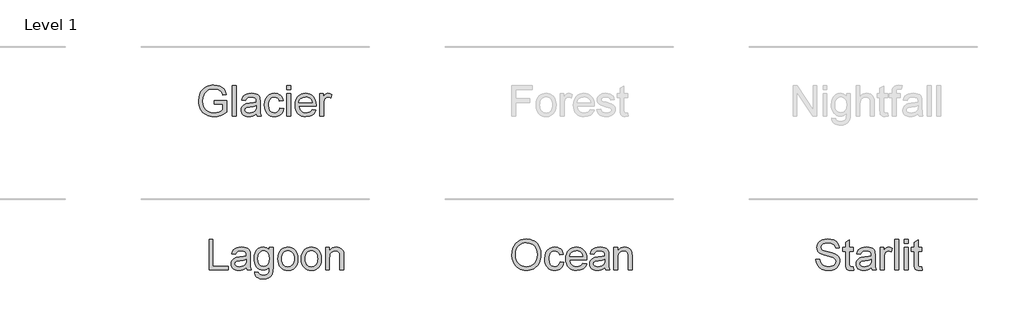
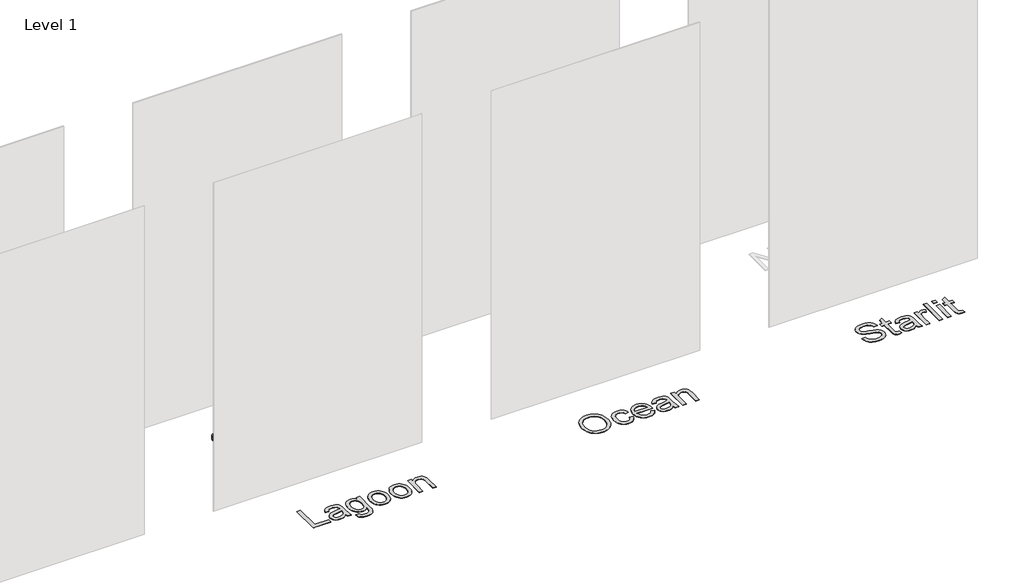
# One storey, part 6 of 7: 4 proxies.
"""IFC4 building model written with IfcOpenShell, lengths in millimetres."""

from ifc_helpers import new_model, si_unit, origin, origin_with_axes, place, context, project, spatial, polyline, outline, extrude, element, save

model = new_model("IFC4")

# Units and contexts
model_context = context("Model", 3, world=origin())
ifc_project = project(units=[si_unit("LENGTHUNIT", "METRE", prefix="MILLI")], contexts=[model_context])

# Site, building, storey
site = spatial("IfcSite", under=ifc_project)
building = spatial("IfcBuilding", under=site)
storey = spatial("IfcBuildingStorey", under=building, Name="Level 1", Elevation=0.0)

# Proxies
placement = place(None, origin())
element("IfcBuildingElementProxy", 1, Name="400mm Arial", ObjectType="400mm Arial", at=placement, inside=storey, context=model_context, shape_type="SweptSolid", body=[
    extrude(outline(polyline([(-369.6073831, 9946.5888668), (-369.6073831, 9996.8170219), (-206.3658791, 9996.8170219), (-206.3658791, 9846.623066), (-246.0358209, 9819.0319164), (-286.9565615, 9799.239865), (-329.029999, 9787.3204884), (-372.1580316, 9783.3473628), (-401.009177, 9784.9261897), (-428.5052905, 9789.6626704), (-454.6463719, 9797.5568049), (-479.4324214, 9808.6085932), (-502.0632954, 9822.6524883), (-521.7388508, 9839.5229435), (-538.4590875, 9859.2199586), (-552.2240055, 9881.7435338), (-562.9753568, 9906.3732334), (-570.6548934, 9932.3886218), (-575.2626154, 9959.7896991), (-576.7985228, 9988.5764652), (-570.6794189, 10045.1689788), (-563.0305391, 10071.9845106), (-552.3221073, 10097.8128923), (-538.744196, 10121.5198212), (-522.4868775, 10141.9709945), (-503.5501518, 10159.166412), (-481.9340189, 10173.106074), (-458.1075284, 10183.8788851), (-432.5397297, 10191.5737501), (-405.2306229, 10196.1906692), (-376.1802081, 10197.7296422), (-334.8057463, 10194.1611868), (-297.6006139, 10183.4558208), (-266.2693306, 10166.3860962), (-242.5164165, 10143.7245653), (-224.9439198, 10114.3798448), (-212.1538891, 10077.2605515), (-258.4579696, 10064.2130034), (-268.7954537, 10090.6882443), (-281.3647552, 10110.6642367), (-297.9930213, 10125.722873), (-320.5073995, 10137.4460459), (-347.3505224, 10144.9876268), (-376.965023, 10147.5014871), (-411.6317697, 10144.7914231), (-441.2707957, 10136.661231), (-465.7717366, 10124.1287177), (-485.0242277, 10108.21169), (-499.8008212, 10089.7317511), (-510.8740692, 10069.5105041), (-522.6462931, 10031.5941332), (-526.5703677, 9990.6366044), (-521.8492154, 9942.6034785), (-507.6857586, 9903.0806895), (-484.5091929, 9872.3502802), (-452.748714, 9850.6942934), (-415.5803697, 9837.8552118), (-376.1802081, 9833.5755179), (-341.390834, 9836.8006167), (-307.4598514, 9846.4759132), (-277.9925035, 9859.8055042), (-256.5940342, 9873.9934864), (-256.5940342, 9946.5888668), (-369.6073831, 9946.5888668)])), origin_with_axes(), (0.0, 0.0, 1.0), 5.0),
    extrude(outline(polyline([(-131.0236465, 9789.6258822), (-131.0236465, 10191.4511228), (-80.7954914, 10191.4511228), (-80.7954914, 9789.6258822), (-131.0236465, 9789.6258822)])), origin_with_axes(), (0.0, 0.0, 1.0), 5.0),
    extrude(outline(polyline([(182.9023227, 9827.2969985), (158.9041539, 9806.7201322), (134.1947466, 9793.2556512), (108.210015, 9785.8244349), (80.3858734, 9783.3473628), (58.0217138, 9784.8372849), (38.4105378, 9789.3070511), (21.5523453, 9796.7566615), (7.4471365, 9807.1861161), (-3.6904909, 9819.9332272), (-11.645939, 9834.3358074), (-16.4192079, 9850.3938564), (-18.0102976, 9868.1073745), (-15.6068019, 9888.9294954), (-8.3963147, 9907.83863), (2.7259842, 9924.0254378), (16.8649156, 9936.6805784), (33.480919, 9946.2455103), (52.0344343, 9953.1616918), (95.4935607, 9960.7155354), (146.8498872, 9968.6617865), (182.6080171, 9977.9814637), (182.9023227, 9989.1650764), (179.444232, 10011.5813526), (169.0699597, 10026.2475815), (145.8688686, 10037.1368886), (113.5443039, 10040.7666576), (83.623235, 10038.3508991), (62.7275377, 10031.1036238), (48.4782417, 10017.7004565), (38.4963769, 9996.8170219), (-11.7317782, 10003.0955413), (-3.0129749, 10030.5640636), (9.997785, 10052.146474), (28.5145121, 10068.6521128), (53.751217, 10080.8903205), (84.6165164, 10088.4686896), (120.019027, 10090.9948127), (153.9745352, 10088.7629952), (180.8912345, 10082.0675429), (201.1860579, 10071.999839), (215.2759383, 10059.6512667), (224.620141, 10044.3841639), (230.6779312, 10025.5608684), (233.1304778, 9981.6112328), (233.1304778, 9919.1203445), (235.6811263, 9831.8587352), (245.6875166, 9789.6258822), (195.4593615, 9789.6258822), (187.4150086, 9807.0880142), (182.9023227, 9827.2969985)]), holes=[polyline([(182.9023227, 9927.7533087), (149.1552811, 9919.3901246), (101.8701819, 9912.3513158), (58.6563102, 9904.208861), (47.4113839, 9898.6415801), (39.0849881, 9890.9651091), (33.9346402, 9881.7680593), (32.2178575, 9871.6390417), (35.9579911, 9856.7030327), (47.178392, 9844.464825), (65.6338054, 9836.2978447), (91.0789767, 9833.5755179), (118.0569897, 9836.5798875), (141.895743, 9845.5929964), (161.2218105, 9858.8735364), (174.6617661, 9874.6801995), (180.6214544, 9890.9651091), (182.6080171, 9913.5285382), (182.9023227, 9927.7533087)])]), origin_with_axes(), (0.0, 0.0, 1.0), 5.0),
    extrude(outline(polyline([(490.5497726, 9896.3607117), (540.7779277, 9890.0821924), (535.31488, 9866.3813948), (526.7738864, 9845.4090554), (515.1549467, 9827.1651741), (500.458061, 9811.649751), (483.3024973, 9799.2674562), (464.3075236, 9790.4229599), (443.4731399, 9785.1162621), (420.7993463, 9783.3473628), (392.6287825, 9785.8152379), (367.3706179, 9793.218863), (345.0248523, 9805.5582383), (325.5914859, 9822.8333636), (309.861465, 9844.7192767), (298.6257357, 9870.8910149), (291.8842981, 9901.3485785), (289.6371523, 9936.0919672), (293.4753878, 9980.7896296), (304.9900942, 10019.5276037), (324.3652126, 10050.809836), (351.784684, 10073.1402732), (384.5874952, 10086.5311778), (420.1126332, 10090.9948127), (442.3970851, 10089.461971), (462.5539527, 10084.8634461), (480.5832362, 10077.1992378), (496.4849354, 10066.4693463), (509.9892703, 10052.9190262), (520.8264608, 10036.793532), (528.9965068, 10018.0928639), (534.4994083, 9996.8170219), (484.2712532, 9990.5385025), (475.1600424, 10012.4520067), (460.9720602, 10028.1605679), (442.4921213, 10037.6151352), (420.5050407, 10040.7666576), (403.4383818, 10039.2154218), (388.045586, 10034.5617146), (374.3266533, 10026.8055359), (362.2815836, 10015.9468856), (352.4744627, 10001.7343779), (345.4693764, 9983.9166266), (341.2663246, 9962.4936317), (339.8653074, 9937.4653933), (345.3467491, 9890.3887607), (352.1985512, 9872.4514477), (361.7910743, 9858.248137), (373.5970206, 9847.4538662), (387.0890928, 9839.7436727), (402.2672908, 9835.1175566), (419.1316146, 9833.5755179), (445.1408716, 9837.4260161), (466.4657646, 9848.9775108), (481.9781221, 9868.5243074), (490.5497726, 9896.3607117)])), origin_with_axes(), (0.0, 0.0, 1.0), 5.0),
    extrude(outline(polyline([(584.7275633, 10141.2229677), (584.7275633, 10191.4511228), (634.9557184, 10191.4511228), (634.9557184, 10141.2229677), (584.7275633, 10141.2229677)])), origin_with_axes(), (0.0, 0.0, 1.0), 5.0),
    extrude(outline(polyline([(584.7275633, 9789.6258822), (584.7275633, 10084.7162933), (634.9557184, 10084.7162933), (634.9557184, 9789.6258822), (584.7275633, 9789.6258822)])), origin_with_axes(), (0.0, 0.0, 1.0), 5.0),
    extrude(outline(polyline([(916.9004795, 9877.5251536), (966.1476159, 9871.2466342), (958.596838, 9851.5220279), (948.403441, 9834.1396036), (935.5674251, 9819.0993614), (920.0887901, 9806.4013012), (902.1269517, 9796.3152031), (881.8413254, 9789.1108474), (834.2987089, 9783.3473628), (803.1329725, 9785.833632), (775.3640132, 9793.2924394), (750.9918311, 9805.7237852), (730.016426, 9823.1276692), (713.1490365, 9845.0197136), (701.1009012, 9870.9155404), (693.8720199, 9900.8151496), (691.4623929, 9934.7185411), (693.8965454, 9969.7715639), (701.199003, 10000.6675201), (713.3697657, 10027.4064098), (730.4088334, 10049.9882329), (751.3290562, 10067.9286116), (775.143284, 10080.7431677), (801.8515169, 10088.4319014), (831.4537548, 10090.9948127), (860.1025652, 10088.4380328), (886.0106547, 10080.7676932), (909.1780233, 10067.9837939), (929.6046711, 10050.0863348), (946.2789225, 10027.5535626), (958.1891021, 10000.8637238), (965.3352099, 9970.0168185), (967.7172458, 9935.0128467), (967.4229402, 9921.4747893), (741.690548, 9921.4747893), (744.5998814, 9901.4313519), (750.3848258, 9883.8772494), (759.0453811, 9868.8124817), (770.5815473, 9856.2370488), (784.3556623, 9846.322629), (799.7300641, 9839.2409006), (835.2797275, 9833.5755179), (862.0124858, 9836.1997428), (884.5268639, 9844.0724175), (902.8228618, 9857.6840513), (916.9004795, 9877.5251536)]), holes=[polyline([(741.690548, 9971.7029443), (917.4890907, 9971.7029443), (910.6955365, 9998.2394989), (897.3782083, 10017.2222099), (883.6807354, 10027.5229058), (868.0948015, 10034.8805457), (850.6204067, 10039.2951296), (831.257551, 10040.7666576), (797.4001448, 10036.0700308), (769.4043249, 10021.9801504), (749.9433674, 10000.0175952), (741.690548, 9971.7029443)])]), origin_with_axes(), (0.0, 0.0, 1.0), 5.0),
    extrude(outline(polyline([(1017.9454009, 9789.6258822), (1017.9454009, 10084.7162933), (1061.8950366, 10084.7162933), (1061.8950366, 10041.0609632), (1078.1308953, 10066.3712444), (1093.0914297, 10081.282728), (1108.1010151, 10088.5667915), (1124.4840267, 10090.9948127), (1149.5000023, 10087.119789), (1174.9083855, 10075.4947179), (1158.1329665, 10030.4659617), (1140.4746307, 10038.1914836), (1122.816295, 10040.7666576), (1107.8189723, 10038.2895855), (1094.4158049, 10030.8583692), (1083.5878115, 10019.0370944), (1076.3160108, 10003.3898469), (1070.2091696, 9975.3327134), (1068.1735559, 9944.7249314), (1068.1735559, 9789.6258822), (1017.9454009, 9789.6258822)])), origin_with_axes(), (0.0, 0.0, 1.0), 5.0),
])
element("IfcBuildingElementProxy", 2, Name="400mm Arial", ObjectType="400mm Arial", at=placement, inside=storey, context=model_context, shape_type="SweptSolid", body=[
    extrude(outline(polyline([(-437.9629646, 7763.6258822), (-437.9629646, 8165.4511228), (-387.7348095, 8165.4511228), (-387.7348095, 7813.8540373), (-186.8221892, 7813.8540373), (-186.8221892, 7763.6258822), (-437.9629646, 7763.6258822)])), origin_with_axes(), (0.0, 0.0, 1.0), 5.0),
    extrude(outline(polyline([(51.7615474, 7801.2969985), (27.7633786, 7780.7201322), (3.0539712, 7767.2556512), (-22.9307604, 7759.8244349), (-50.754902, 7757.3473628), (-73.1190616, 7758.8372849), (-92.7302376, 7763.3070511), (-109.58843, 7770.7566615), (-123.6936389, 7781.1861161), (-134.8312663, 7793.9332272), (-142.7867144, 7808.3358074), (-147.5599833, 7824.3938564), (-149.1510729, 7842.1073745), (-146.7475772, 7862.9294954), (-139.5370901, 7881.83863), (-128.4147911, 7898.0254378), (-114.2758598, 7910.6805784), (-97.6598563, 7920.2455103), (-79.106341, 7927.1616918), (-35.6472147, 7934.7155354), (15.7091118, 7942.6617865), (51.4672418, 7951.9814637), (51.7615474, 7963.1650764), (48.3034566, 7985.5813526), (37.9291844, 8000.2475815), (14.7280932, 8011.1368886), (-17.5964715, 8014.7666576), (-47.5175404, 8012.3508991), (-68.4132377, 8005.1036238), (-82.6625337, 7991.7004565), (-92.6443985, 7970.8170219), (-142.8725535, 7977.0955413), (-134.1537503, 8004.5640636), (-121.1429904, 8026.146474), (-102.6262633, 8042.6521128), (-77.3895584, 8054.8903205), (-46.524259, 8062.4686896), (-11.1217483, 8064.9948127), (22.8337598, 8062.7629952), (49.7504591, 8056.0675429), (70.0452825, 8045.999839), (84.1351629, 8033.6512667), (93.4793656, 8018.3841639), (99.5371558, 7999.5608684), (101.9897024, 7955.6112328), (101.9897024, 7893.1203445), (104.5403509, 7805.8587352), (114.5467412, 7763.6258822), (64.3185861, 7763.6258822), (56.2742332, 7781.0880142), (51.7615474, 7801.2969985)]), holes=[polyline([(51.7615474, 7901.7533087), (18.0145057, 7893.3901246), (-29.2705934, 7886.3513158), (-72.4844651, 7878.208861), (-83.7293915, 7872.6415801), (-92.0557873, 7864.9651091), (-97.2061352, 7855.7680593), (-98.9229179, 7845.6390417), (-95.1827842, 7830.7030327), (-83.9623834, 7818.464825), (-65.50697, 7810.2978447), (-40.0617986, 7807.5755179), (-13.0837856, 7810.5798875), (10.7549676, 7819.5929964), (30.0810351, 7832.8735364), (43.5209907, 7848.6801995), (49.480679, 7864.9651091), (51.4672418, 7887.5285382), (51.7615474, 7901.7533087)])]), origin_with_axes(), (0.0, 0.0, 1.0), 5.0),
    extrude(outline(polyline([(158.4963769, 7738.5118047), (208.724532, 7732.2332853), (214.2672874, 7716.5369868), (225.0094416, 7705.7457816), (246.1258682, 7697.3580721), (273.7660687, 7694.562169), (303.2456793, 7697.7259541), (325.1714462, 7707.2173096), (340.3772353, 7722.4230987), (349.6969125, 7742.7301849), (353.1304778, 7801.2969985), (336.4163725, 7784.8158851), (317.7647554, 7773.0436613), (297.1756264, 7765.980327), (274.6489855, 7763.6258822), (247.1099525, 7766.3666031), (222.8634633, 7774.5887657), (201.909518, 7788.29237), (184.2481166, 7807.477416), (170.2348782, 7830.4945662), (160.2254223, 7855.6944829), (154.2197487, 7883.077166), (152.2178575, 7912.6426157), (155.8108383, 7953.1954743), (166.5897808, 7990.4864459), (184.1745402, 8022.0875093), (208.1849717, 8045.5706433), (237.7994723, 8060.1387703), (272.1964389, 8064.9948127), (295.6857043, 8062.2479604), (317.0044659, 8054.0074037), (336.1527237, 8040.2731426), (353.1304778, 8021.045177), (353.1304778, 8058.7162933), (403.3586329, 8058.7162933), (403.3586329, 7803.9457489), (399.9250676, 7745.1214178), (389.6243717, 7706.3834438), (371.8801968, 7680.6930178), (346.1161944, 7661.011331), (312.8964503, 7648.5033432), (272.7850501, 7644.3340139), (248.1768103, 7645.8024762), (226.051774, 7650.2078631), (206.4099411, 7657.5501746), (189.2513117, 7667.8294107), (175.3913575, 7681.0578341), (165.6455503, 7697.2477075), (160.0138901, 7716.3990311), (158.4963769, 7738.5118047)]), holes=[polyline([(202.4460126, 7916.076181), (207.804827, 7870.0050925), (214.503345, 7852.3682165), (223.8812702, 7838.3304527), (235.2825463, 7827.6220209), (248.0511173, 7819.9731411), (262.1869829, 7815.3838132), (277.6901433, 7813.8540373), (293.0400196, 7815.3746162), (307.1084402, 7819.9363529), (319.8954052, 7827.5392475), (331.4009146, 7838.1832999), (340.9075985, 7852.0831079), (347.698087, 7869.4532695), (353.1304778, 7914.604653), (347.5386715, 7958.1496185), (340.5489136, 7975.3511675), (330.7632525, 7989.5054272), (319.0094228, 8000.5572155), (306.1151588, 8008.45135), (292.0804607, 8013.1878307), (276.9053284, 8014.7666576), (261.9846478, 8013.2123561), (248.2227955, 8008.5494519), (224.1755758, 7989.8978347), (214.6688919, 7975.9581728), (207.8784034, 7959.0080098), (202.4460126, 7916.076181)])]), origin_with_axes(), (0.0, 0.0, 1.0), 5.0),
    extrude(outline(polyline([(466.1438267, 7911.1710877), (468.8600221, 7949.3878957), (477.0086083, 7982.3194656), (490.5895853, 8009.9657975), (509.6029531, 8032.3268915), (528.7450796, 8046.619107), (549.8737688, 8056.8278324), (572.9890209, 8062.9530676), (598.0908357, 8064.9948127), (625.801547, 8062.5085435), (650.8573765, 8055.049736), (673.2583243, 8042.6183903), (693.0043904, 8025.2145062), (709.1206875, 8003.4266951), (720.6323283, 7977.843568), (727.5393127, 7948.465125), (729.8416409, 7915.2913661), (725.7704135, 7864.5481762), (713.5567312, 7825.9205667), (693.5562134, 7796.9927792), (666.1244793, 7775.3490551), (633.5423973, 7761.8477859), (598.0908357, 7757.3473628), (569.9754542, 7759.8244349), (544.6866327, 7767.2556512), (522.2243712, 7779.6410117), (502.5886697, 7796.9805164), (486.6440509, 7818.9798597), (475.2550375, 7845.3447361), (468.4216294, 7876.0751454), (466.1438267, 7911.1710877)]), holes=[polyline([(516.3719818, 7911.2691896), (517.8251157, 7886.9062045), (522.1845173, 7865.8112377), (529.4501867, 7847.9842894), (539.6221239, 7833.4253594), (551.9952217, 7822.1160538), (565.8643729, 7814.0379783), (581.2295776, 7809.191133), (598.0908357, 7807.5755179), (614.8662547, 7809.20033), (630.1701457, 7814.0747665), (644.0025087, 7822.1988272), (656.3633437, 7833.5725122), (666.5352809, 7848.2755293), (673.8009503, 7866.3875862), (678.1603519, 7887.9086829), (679.6134858, 7912.8388194), (678.1511549, 7936.4292524), (673.7641621, 7956.9723961), (666.4525074, 7974.4682507), (656.2161909, 7988.916816), (643.8093706, 8000.2261217), (629.9862047, 8008.3041972), (614.746693, 8013.1510425), (598.0908357, 8014.7666576), (581.2295776, 8013.1571738), (565.8643729, 8008.3287227), (551.9952217, 8000.281304), (539.6221239, 7989.0149179), (529.4501867, 7974.4989075), (522.1845173, 7956.702616), (517.8251157, 7935.6260434), (516.3719818, 7911.2691896)])]), origin_with_axes(), (0.0, 0.0, 1.0), 5.0),
    extrude(outline(polyline([(773.7912766, 7911.1710877), (776.507472, 7949.3878957), (784.6560582, 7982.3194656), (798.2370352, 8009.9657975), (817.2504029, 8032.3268915), (836.3925294, 8046.619107), (857.5212187, 8056.8278324), (880.6364707, 8062.9530676), (905.7382855, 8064.9948127), (933.4489968, 8062.5085435), (958.5048263, 8055.049736), (980.9057742, 8042.6183903), (1000.6518403, 8025.2145062), (1016.7681373, 8003.4266951), (1028.2797781, 7977.843568), (1035.1867626, 7948.465125), (1037.4890907, 7915.2913661), (1033.4178633, 7864.5481762), (1021.2041811, 7825.9205667), (1001.2036633, 7796.9927792), (973.7719291, 7775.3490551), (941.1898471, 7761.8477859), (905.7382855, 7757.3473628), (877.622904, 7759.8244349), (852.3340825, 7767.2556512), (829.8718211, 7779.6410117), (810.2361196, 7796.9805164), (794.2915008, 7818.9798597), (782.9024873, 7845.3447361), (776.0690793, 7876.0751454), (773.7912766, 7911.1710877)]), holes=[polyline([(824.0194316, 7911.2691896), (825.4725655, 7886.9062045), (829.8319672, 7865.8112377), (837.0976366, 7847.9842894), (847.2695737, 7833.4253594), (859.6426715, 7822.1160538), (873.5118227, 7814.0379783), (888.8770274, 7809.191133), (905.7382855, 7807.5755179), (922.5137045, 7809.20033), (937.8175955, 7814.0747665), (951.6499585, 7822.1988272), (964.0107935, 7833.5725122), (974.1827307, 7848.2755293), (981.4484001, 7866.3875862), (985.8078018, 7887.9086829), (987.2609356, 7912.8388194), (985.7986047, 7936.4292524), (981.4116119, 7956.9723961), (974.0999573, 7974.4682507), (963.8636407, 7988.916816), (951.4568205, 8000.2261217), (937.6336545, 8008.3041972), (922.3941428, 8013.1510425), (905.7382855, 8014.7666576), (888.8770274, 8013.1571738), (873.5118227, 8008.3287227), (859.6426715, 8000.281304), (847.2695737, 7989.0149179), (837.0976366, 7974.4989075), (829.8319672, 7956.702616), (825.4725655, 7935.6260434), (824.0194316, 7911.2691896)])]), origin_with_axes(), (0.0, 0.0, 1.0), 5.0),
    extrude(outline(polyline([(1093.9957652, 7763.6258822), (1093.9957652, 8058.7162933), (1144.2239202, 8058.7162933), (1144.2239202, 8017.5135098), (1161.6737896, 8038.2865798), (1182.6308005, 8053.1244869), (1207.0949532, 8062.0272312), (1235.0662476, 8064.9948127), (1259.8247059, 8062.6035797), (1282.4984995, 8055.4298808), (1301.4076341, 8044.3688955), (1314.8721151, 8030.3158032), (1324.0078513, 8013.3073923), (1329.9307514, 7993.3804509), (1332.5795018, 7944.8200276), (1332.5795018, 7763.6258822), (1282.3513467, 7763.6258822), (1282.3513467, 7938.0509988), (1280.9043442, 7964.0234677), (1276.5633366, 7982.4911439), (1268.5557719, 7995.722633), (1256.1090977, 8005.9865406), (1240.1552819, 8012.5716283), (1221.626292, 8014.7666576), (1192.2079952, 8009.8370388), (1167.1307058, 7995.0481826), (1157.1089871, 7982.9755218), (1149.9506166, 7966.4760143), (1145.6555943, 7945.5496602), (1144.2239202, 7920.1964594), (1144.2239202, 7763.6258822), (1093.9957652, 7763.6258822)])), origin_with_axes(), (0.0, 0.0, 1.0), 5.0),
])
element("IfcBuildingElementProxy", 3, Name="400mm Arial", ObjectType="400mm Arial", at=placement, inside=storey, context=model_context, shape_type="SweptSolid", body=[
    extrude(outline(polyline([(3543.2014772, 7959.2410018), (3546.5492034, 8006.3728167), (3556.5923819, 8048.0967663), (3573.3310126, 8084.4128506), (3596.7650957, 8115.3210696), (3625.4905482, 8139.9998201), (3658.1032871, 8157.627499), (3694.6033124, 8168.2041064), (3734.9906241, 8171.7296422), (3762.0238193, 8170.0741732), (3787.6958512, 8165.1077663), (3812.0067197, 8156.8304214), (3834.9564249, 8145.2421385), (3855.9011731, 8130.6924056), (3874.197171, 8113.5307105), (3889.8444186, 8093.7570533), (3902.8429157, 8071.3714339), (3913.0577725, 8046.8827558), (3920.3540987, 8020.7999223), (3926.1911597, 7963.8517894), (3924.6552524, 7934.1943693), (3920.0475304, 7906.1433671), (3912.3679937, 7879.698783), (3901.6166424, 7854.860617), (3888.0479282, 7832.2849252), (3871.9163027, 7812.627764), (3853.2217659, 7795.8891332), (3831.964318, 7782.0690329), (3808.9808903, 7771.2533022), (3785.1084145, 7763.5277803), (3760.3468906, 7758.8924672), (3734.6963185, 7757.3473628), (3707.191008, 7759.0549484), (3681.1817509, 7764.1777052), (3656.6685473, 7772.7156332), (3633.6513971, 7784.6687323), (3612.7311743, 7799.5740845), (3594.5087528, 7816.9687715), (3578.9841326, 7836.8527933), (3566.1573137, 7859.22615), (3548.9404364, 7907.847887), (3543.2014772, 7959.2410018)]), holes=[polyline([(3593.4296323, 7958.7504924), (3595.9404269, 7925.4510405), (3603.4728108, 7895.8917222), (3616.0267839, 7870.0725375), (3633.6023462, 7847.9934864), (3654.9670931, 7830.3106252), (3678.8886198, 7817.68001), (3705.3669264, 7810.1016409), (3734.4020129, 7807.5755179), (3763.93374, 7810.1261664), (3790.7247463, 7817.7781119), (3814.7750318, 7830.5313544), (3836.0845963, 7848.3858939), (3853.5314, 7870.9309288), (3865.9934025, 7897.7556576), (3873.4706041, 7928.8600803), (3875.9630046, 7964.2441969), (3871.6955735, 8008.7088674), (3858.89328, 8047.1402732), (3837.8872181, 8078.5696583), (3809.0084815, 8102.0282668), (3774.1700565, 8116.633182), (3735.2849297, 8121.5014871), (3707.258453, 8119.1562394), (3681.2553273, 8112.1204962), (3657.2755526, 8100.3942576), (3635.3191288, 8083.9775236), (3616.9924741, 8062.0793478), (3603.9020064, 8033.9087841), (3596.0477258, 7999.4658323), (3593.4296323, 7958.7504924)])]), origin_with_axes(), (0.0, 0.0, 1.0), 5.0),
    extrude(outline(polyline([(4177.3319351, 7870.3607117), (4227.5600901, 7864.0821924), (4222.0970425, 7840.3813948), (4213.5560489, 7819.4090554), (4201.9371092, 7801.1651741), (4187.2402235, 7785.649751), (4170.0846598, 7773.2674562), (4151.0896861, 7764.4229599), (4130.2553024, 7759.1162621), (4107.5815088, 7757.3473628), (4079.410945, 7759.8152379), (4054.1527803, 7767.218863), (4031.8070148, 7779.5582383), (4012.3736484, 7796.8333636), (3996.6436274, 7818.7192767), (3985.4078982, 7844.8910149), (3978.6664606, 7875.3485785), (3976.4193148, 7910.0919672), (3980.2575502, 7954.7896296), (3991.7722567, 7993.5276037), (4011.1473751, 8024.809836), (4038.5668465, 8047.1402732), (4071.3696577, 8060.5311778), (4106.8947957, 8064.9948127), (4129.1792476, 8063.461971), (4149.3361152, 8058.8634461), (4167.3653987, 8051.1992378), (4183.2670979, 8040.4693463), (4196.7714328, 8026.9190262), (4207.6086233, 8010.793532), (4215.7786692, 7992.0928639), (4221.2815707, 7970.8170219), (4171.0534157, 7964.5385025), (4161.9422049, 7986.4520067), (4147.7542226, 8002.1605679), (4129.2742838, 8011.6151352), (4107.2872032, 8014.7666576), (4090.2205443, 8013.2154218), (4074.8277485, 8008.5617146), (4061.1088157, 8000.8055359), (4049.0637461, 7989.9468856), (4039.2566252, 7975.7343779), (4032.2515389, 7957.9166266), (4028.0484871, 7936.4936317), (4026.6474698, 7911.4653933), (4032.1289116, 7864.3887607), (4038.9807137, 7846.4514477), (4048.5732367, 7832.248137), (4060.3791831, 7821.4538662), (4073.8712553, 7813.7436727), (4089.0494533, 7809.1175566), (4105.9137771, 7807.5755179), (4131.9230341, 7811.4260161), (4153.2479271, 7822.9775108), (4168.7602846, 7842.5243074), (4177.3319351, 7870.3607117)])), origin_with_axes(), (0.0, 0.0, 1.0), 5.0),
    extrude(outline(polyline([(4478.1122543, 7851.5251536), (4527.3593907, 7845.2466342), (4519.8086128, 7825.5220279), (4509.6152158, 7808.1396036), (4496.7791999, 7793.0993614), (4481.3005649, 7780.4013012), (4463.3387265, 7770.3152031), (4443.0531002, 7763.1108474), (4395.5104837, 7757.3473628), (4364.3447473, 7759.833632), (4336.575788, 7767.2924394), (4312.2036059, 7779.7237852), (4291.2282008, 7797.1276692), (4274.3608113, 7819.0197136), (4262.3126759, 7844.9155404), (4255.0837947, 7874.8151496), (4252.6741677, 7908.7185411), (4255.1083202, 7943.7715639), (4262.4107778, 7974.6675201), (4274.5815405, 8001.4064098), (4291.6206082, 8023.9882329), (4312.540831, 8041.9286116), (4336.3550588, 8054.7431677), (4363.0632917, 8062.4319014), (4392.6655296, 8064.9948127), (4421.3143399, 8062.4380328), (4447.2224295, 8054.7676932), (4470.3897981, 8041.9837939), (4490.8164459, 8024.0863348), (4507.4906973, 8001.5535626), (4519.4008769, 7974.8637238), (4526.5469847, 7944.0168185), (4528.9290206, 7909.0128467), (4528.634715, 7895.4747893), (4302.9023227, 7895.4747893), (4305.8116562, 7875.4313519), (4311.5966006, 7857.8772494), (4320.2571559, 7842.8124817), (4331.7933221, 7830.2370488), (4345.5674371, 7820.322629), (4360.9418389, 7813.2409006), (4396.4915023, 7807.5755179), (4423.2242606, 7810.1997428), (4445.7386387, 7818.0724175), (4464.0346366, 7831.6840513), (4478.1122543, 7851.5251536)]), holes=[polyline([(4302.9023227, 7945.7029443), (4478.7008655, 7945.7029443), (4471.9073113, 7972.2394989), (4458.5899831, 7991.2222099), (4444.8925102, 8001.5229058), (4429.3065763, 8008.8805457), (4411.8321815, 8013.2951296), (4392.4693258, 8014.7666576), (4358.6119195, 8010.0700308), (4330.6160997, 7995.9801504), (4311.1551422, 7974.0175952), (4302.9023227, 7945.7029443)])]), origin_with_axes(), (0.0, 0.0, 1.0), 5.0),
    extrude(outline(polyline([(4767.5127572, 7801.2969985), (4743.5145884, 7780.7201322), (4718.805181, 7767.2556512), (4692.8204494, 7759.8244349), (4664.9963079, 7757.3473628), (4642.6321482, 7758.8372849), (4623.0209722, 7763.3070511), (4606.1627798, 7770.7566615), (4592.057571, 7781.1861161), (4580.9199436, 7793.9332272), (4572.9644954, 7808.3358074), (4568.1912265, 7824.3938564), (4566.6001369, 7842.1073745), (4569.0036326, 7862.9294954), (4576.2141197, 7881.83863), (4587.3364187, 7898.0254378), (4601.47535, 7910.6805784), (4618.0913535, 7920.2455103), (4636.6448688, 7927.1616918), (4680.1039951, 7934.7155354), (4731.4603217, 7942.6617865), (4767.2184516, 7951.9814637), (4767.5127572, 7963.1650764), (4764.0546664, 7985.5813526), (4753.6803942, 8000.2475815), (4730.479303, 8011.1368886), (4698.1547384, 8014.7666576), (4668.2336694, 8012.3508991), (4647.3379721, 8005.1036238), (4633.0886761, 7991.7004565), (4623.1068113, 7970.8170219), (4572.8786563, 7977.0955413), (4581.5974596, 8004.5640636), (4594.6082195, 8026.146474), (4613.1249465, 8042.6521128), (4638.3616514, 8054.8903205), (4669.2269508, 8062.4686896), (4704.6294615, 8064.9948127), (4738.5849696, 8062.7629952), (4765.5016689, 8056.0675429), (4785.7964923, 8045.999839), (4799.8863728, 8033.6512667), (4809.2305754, 8018.3841639), (4815.2883656, 7999.5608684), (4817.7409123, 7955.6112328), (4817.7409123, 7893.1203445), (4820.2915608, 7805.8587352), (4830.297951, 7763.6258822), (4780.069796, 7763.6258822), (4772.025443, 7781.0880142), (4767.5127572, 7801.2969985)]), holes=[polyline([(4767.5127572, 7901.7533087), (4733.7657155, 7893.3901246), (4686.4806164, 7886.3513158), (4643.2667447, 7878.208861), (4632.0218184, 7872.6415801), (4623.6954225, 7864.9651091), (4618.5450746, 7855.7680593), (4616.828292, 7845.6390417), (4620.5684256, 7830.7030327), (4631.7888264, 7818.464825), (4650.2442399, 7810.2978447), (4675.6894112, 7807.5755179), (4702.6674242, 7810.5798875), (4726.5061775, 7819.5929964), (4745.8322449, 7832.8735364), (4759.2722005, 7848.6801995), (4765.2318888, 7864.9651091), (4767.2184516, 7887.5285382), (4767.5127572, 7901.7533087)])]), origin_with_axes(), (0.0, 0.0, 1.0), 5.0),
    extrude(outline(polyline([(4886.8046255, 7763.6258822), (4886.8046255, 8058.7162933), (4937.0327806, 8058.7162933), (4937.0327806, 8017.5135098), (4954.4826499, 8038.2865798), (4975.4396609, 8053.1244869), (4999.9038135, 8062.0272312), (5027.8751079, 8064.9948127), (5052.6335662, 8062.6035797), (5075.3073598, 8055.4298808), (5094.2164944, 8044.3688955), (5107.6809754, 8030.3158032), (5116.8167116, 8013.3073923), (5122.7396117, 7993.3804509), (5125.3883621, 7944.8200276), (5125.3883621, 7763.6258822), (5075.160207, 7763.6258822), (5075.160207, 7938.0509988), (5073.7132045, 7964.0234677), (5069.372197, 7982.4911439), (5061.3646322, 7995.722633), (5048.917958, 8005.9865406), (5032.9641422, 8012.5716283), (5014.4351523, 8014.7666576), (4985.0168555, 8009.8370388), (4959.9395661, 7995.0481826), (4949.9178474, 7982.9755218), (4942.759477, 7966.4760143), (4938.4644547, 7945.5496602), (4937.0327806, 7920.1964594), (4937.0327806, 7763.6258822), (4886.8046255, 7763.6258822)])), origin_with_axes(), (0.0, 0.0, 1.0), 5.0),
])
element("IfcBuildingElementProxy", 4, Name="400mm Arial", ObjectType="400mm Arial", at=placement, inside=storey, context=model_context, shape_type="SweptSolid", body=[
    extrude(outline(polyline([(7543.2014772, 7901.7533087), (7593.4296323, 7901.7533087), (7599.1931169, 7873.8801162), (7609.6164401, 7851.4761027), (7625.8768243, 7833.6951396), (7649.1514918, 7819.6910983), (7677.6010328, 7810.604413), (7709.3860372, 7807.5755179), (7737.3695943, 7809.868649), (7761.8705352, 7816.7480423), (7781.7239002, 7827.6373494), (7795.7647297, 7841.9602217), (7804.115651, 7858.4045469), (7806.8992914, 7875.6582125), (7804.8146267, 7892.4704196), (7798.5606328, 7907.0017585), (7785.8564413, 7919.3993817), (7764.4211837, 7929.8104422), (7691.286243, 7948.9893568), (7643.2776427, 7961.6812857), (7612.5594961, 7973.7600778), (7587.5557831, 7990.6581242), (7569.8361337, 8011.1368886), (7559.2779204, 8034.7549126), (7555.758516, 8061.070738), (7560.1117863, 8090.4890349), (7573.1715971, 8117.920769), (7594.594592, 8141.1709111), (7624.0374143, 8158.044432), (7659.3786113, 8168.3083396), (7698.4967301, 8171.7296422), (7740.876736, 8168.1489241), (7777.9592411, 8157.4067698), (7808.4198703, 8139.7239086), (7830.9342484, 8115.3210696), (7845.1835443, 8085.7188317), (7850.8489271, 8052.4377739), (7800.620772, 8052.4377739), (7791.3991967, 8082.4078938), (7783.0360126, 8094.2659567), (7772.171231, 8104.0393551), (7742.1275348, 8117.1359541), (7700.4587674, 8121.5014871), (7657.8089815, 8117.185005), (7641.5056777, 8111.7894024), (7628.5501001, 8104.2355588), (7611.6275283, 8085.1792715), (7605.9866711, 8062.542266), (7609.9843221, 8043.240724), (7621.9772751, 8027.7161038), (7650.3287142, 8013.8346899), (7703.9904346, 7999.6589703), (7759.3689376, 7986.1944893), (7792.8707246, 7974.4467909), (7821.5042066, 7956.2243694), (7841.4801989, 7933.7345168), (7853.2156346, 7907.2224877), (7857.1274465, 7876.9335367), (7852.6270234, 7845.9701355), (7839.1257542, 7816.8461442), (7817.1754618, 7791.7811176), (7787.3279692, 7772.9946103), (7751.4349492, 7761.2591747), (7711.3480745, 7757.3473628), (7662.1377263, 7761.565743), (7621.6339186, 7774.2208837), (7589.3706676, 7795.3618357), (7564.8819895, 7825.0376499), (7549.1611656, 7861.1881873), (7543.2014772, 7901.7533087)])), origin_with_axes(), (0.0, 0.0, 1.0), 5.0),
    extrude(outline(polyline([(8032.9259892, 7805.5153787), (8039.2045086, 7762.1543542), (8001.6314942, 7757.3473628), (7977.5229607, 7759.4320275), (7959.5457939, 7765.6860214), (7946.8416023, 7775.3245297), (7938.5519947, 7787.5627374), (7933.990258, 7808.581062), (7932.4696791, 7844.5599211), (7932.4696791, 8008.4881382), (7894.7985628, 8008.4881382), (7894.7985628, 8058.7162933), (7932.4696791, 8058.7162933), (7932.4696791, 8130.4287569), (7982.6978341, 8159.9574183), (7982.6978341, 8058.7162933), (8032.9259892, 8058.7162933), (8032.9259892, 8008.4881382), (7982.6978341, 8008.4881382), (7982.6978341, 7846.0314491), (7985.3465845, 7820.1325567), (7993.9304977, 7810.9600322), (8011.0492732, 7807.5755179), (8032.9259892, 7805.5153787)])), origin_with_axes(), (0.0, 0.0, 1.0), 5.0),
    extrude(outline(polyline([(8271.5097258, 7801.2969985), (8247.511557, 7780.7201322), (8222.8021497, 7767.2556512), (8196.8174181, 7759.8244349), (8168.9932765, 7757.3473628), (8146.6291169, 7758.8372849), (8127.0179409, 7763.3070511), (8110.1597484, 7770.7566615), (8096.0545396, 7781.1861161), (8084.9169122, 7793.9332272), (8076.961464, 7808.3358074), (8072.1881952, 7824.3938564), (8070.5971055, 7842.1073745), (8073.0006012, 7862.9294954), (8080.2110883, 7881.83863), (8091.3333873, 7898.0254378), (8105.4723187, 7910.6805784), (8122.0883221, 7920.2455103), (8140.6418374, 7927.1616918), (8184.1009638, 7934.7155354), (8235.4572903, 7942.6617865), (8271.2154202, 7951.9814637), (8271.5097258, 7963.1650764), (8268.0516351, 7985.5813526), (8257.6773628, 8000.2475815), (8234.4762716, 8011.1368886), (8202.151707, 8014.7666576), (8172.2306381, 8012.3508991), (8151.3349407, 8005.1036238), (8137.0856448, 7991.7004565), (8127.10378, 7970.8170219), (8076.8756249, 7977.0955413), (8085.5944282, 8004.5640636), (8098.6051881, 8026.146474), (8117.1219152, 8042.6521128), (8142.3586201, 8054.8903205), (8173.2239194, 8062.4686896), (8208.6264301, 8064.9948127), (8242.5819383, 8062.7629952), (8269.4986376, 8056.0675429), (8289.793461, 8045.999839), (8303.8833414, 8033.6512667), (8313.2275441, 8018.3841639), (8319.2853343, 7999.5608684), (8321.7378809, 7955.6112328), (8321.7378809, 7893.1203445), (8324.2885294, 7805.8587352), (8334.2949197, 7763.6258822), (8284.0667646, 7763.6258822), (8276.0224116, 7781.0880142), (8271.5097258, 7801.2969985)]), holes=[polyline([(8271.5097258, 7901.7533087), (8237.7626841, 7893.3901246), (8190.477585, 7886.3513158), (8147.2637133, 7878.208861), (8136.018787, 7872.6415801), (8127.6923912, 7864.9651091), (8122.5420432, 7855.7680593), (8120.8252606, 7845.6390417), (8124.5653942, 7830.7030327), (8135.7857951, 7818.464825), (8154.2412085, 7810.2978447), (8179.6863798, 7807.5755179), (8206.6643928, 7810.5798875), (8230.5031461, 7819.5929964), (8249.8292136, 7832.8735364), (8263.2691691, 7848.6801995), (8269.2288575, 7864.9651091), (8271.2154202, 7887.5285382), (8271.5097258, 7901.7533087)])]), origin_with_axes(), (0.0, 0.0, 1.0), 5.0),
    extrude(outline(polyline([(8390.8015941, 7763.6258822), (8390.8015941, 8058.7162933), (8434.7512298, 8058.7162933), (8434.7512298, 8015.0609632), (8450.9870885, 8040.3712444), (8465.947623, 8055.282728), (8480.9572084, 8062.5667915), (8497.3402199, 8064.9948127), (8522.3561956, 8061.119789), (8547.7645787, 8049.4947179), (8530.9891598, 8004.4659617), (8513.330824, 8012.1914836), (8495.6724882, 8014.7666576), (8480.6751655, 8012.2895855), (8467.2719982, 8004.8583692), (8456.4440048, 7993.0370944), (8449.172204, 7977.3898469), (8443.0653629, 7949.3327134), (8441.0297492, 7918.7249314), (8441.0297492, 7763.6258822), (8390.8015941, 7763.6258822)])), origin_with_axes(), (0.0, 0.0, 1.0), 5.0),
    extrude(outline(polyline([(8579.1571757, 7763.6258822), (8579.1571757, 8165.4511228), (8629.3853307, 8165.4511228), (8629.3853307, 7763.6258822), (8579.1571757, 7763.6258822)])), origin_with_axes(), (0.0, 0.0, 1.0), 5.0),
    extrude(outline(polyline([(8704.7275633, 8115.2229677), (8704.7275633, 8165.4511228), (8754.9557184, 8165.4511228), (8754.9557184, 8115.2229677), (8704.7275633, 8115.2229677)])), origin_with_axes(), (0.0, 0.0, 1.0), 5.0),
    extrude(outline(polyline([(8704.7275633, 7763.6258822), (8704.7275633, 8058.7162933), (8754.9557184, 8058.7162933), (8754.9557184, 7763.6258822), (8704.7275633, 7763.6258822)])), origin_with_axes(), (0.0, 0.0, 1.0), 5.0),
    extrude(outline(polyline([(8937.0327806, 7805.5153787), (8943.3112999, 7762.1543542), (8905.7382855, 7757.3473628), (8881.6297521, 7759.4320275), (8863.6525853, 7765.6860214), (8850.9483937, 7775.3245297), (8842.6587861, 7787.5627374), (8838.0970493, 7808.581062), (8836.5764704, 7844.5599211), (8836.5764704, 8008.4881382), (8798.9053541, 8008.4881382), (8798.9053541, 8058.7162933), (8836.5764704, 8058.7162933), (8836.5764704, 8130.4287569), (8886.8046255, 8159.9574183), (8886.8046255, 8058.7162933), (8937.0327806, 8058.7162933), (8937.0327806, 8008.4881382), (8886.8046255, 8008.4881382), (8886.8046255, 7846.0314491), (8889.4533759, 7820.1325567), (8898.0372891, 7810.9600322), (8915.1560646, 7807.5755179), (8937.0327806, 7805.5153787)])), origin_with_axes(), (0.0, 0.0, 1.0), 5.0),
])

save(model, "model.ifc")
